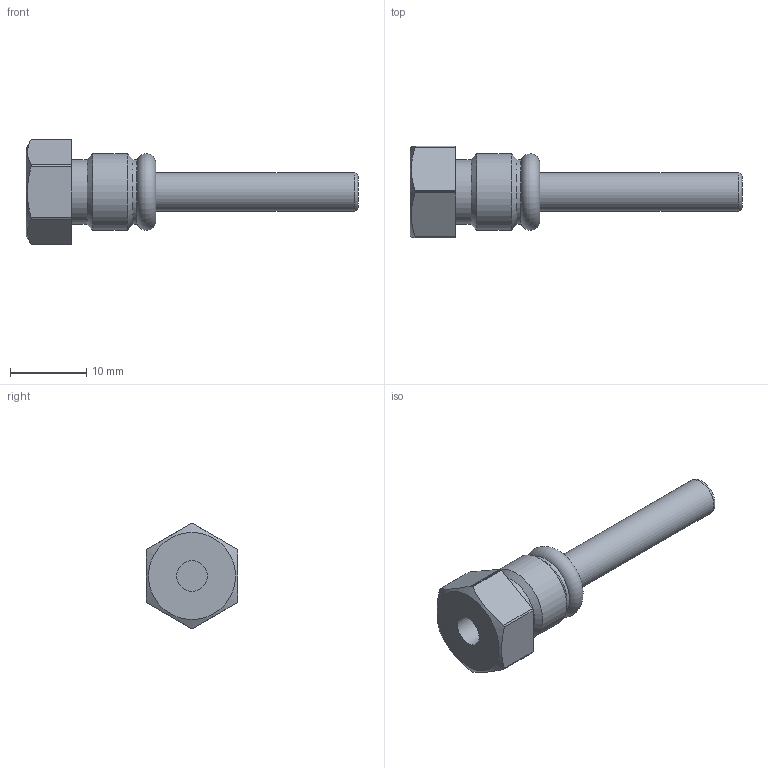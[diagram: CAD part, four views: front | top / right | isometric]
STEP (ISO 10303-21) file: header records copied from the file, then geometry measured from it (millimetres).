
FILE_DESCRIPTION(('TFLEX Exchange Step'),'2;1');
FILE_NAME('Temperature sensor VT.TSU.stp', '2023-08-31T14:32:18+03:00',('denis'),('Unknown organisation'),'TFLEX Exchange 2023.0','T-FLEX CAD','Unknown authorisation');
FILE_SCHEMA( ('AUTOMOTIVE_DESIGN { 1 0 10303 214 1 1 1 1 }') );
Length unit declared in the file: millimetre
Products named in the file (1): Nodes
Bounding box: 43.5 x 12 x 13.7 mm (x, y, z)
Volume: 1985.9 mm3; surface area: 1469.9 mm2
Topology: 3 solids, 3 shells, 29 faces, 68 edges, 45 vertices
Faces by surface type: cylinder 12, plane 12, cone 3, torus 2
Full cylindrical faces by diameter (mm): 4 x1, 5 x1, 8.5 x2, 10 x1
Entity records: 1243 total; most frequent: CARTESIAN_POINT 515, DIRECTION 153, ORIENTED_EDGE 136, EDGE_CURVE 68, AXIS2_PLACEMENT_3D 63, VERTEX_POINT 45, CIRCLE 33, EDGE_LOOP 31
